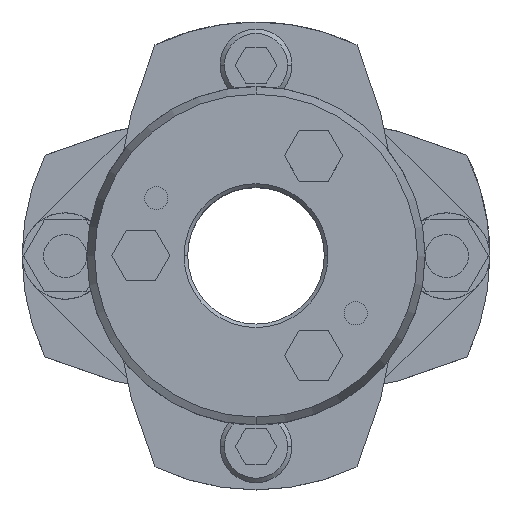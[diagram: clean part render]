
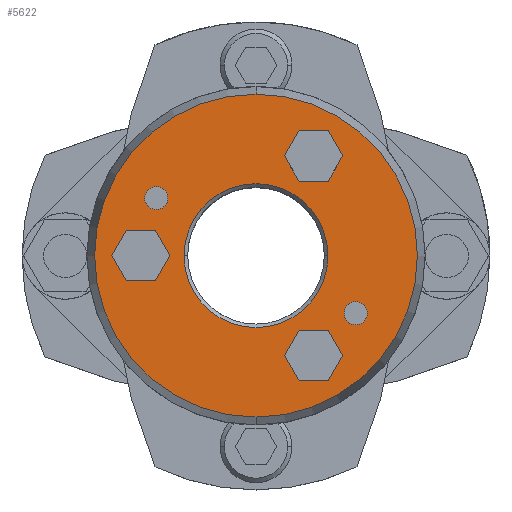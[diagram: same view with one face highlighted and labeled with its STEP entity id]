
A CAD part, top view. The second image highlights one B-rep face of the part: STEP entity #5622.
In plain terms, the highlighted planar face has unit normal (0, 0, 1).
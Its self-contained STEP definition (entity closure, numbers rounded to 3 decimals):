
#814=CARTESIAN_POINT('',(0.,-22.428,30.75));
#815=VERTEX_POINT('',#814);
#824=CARTESIAN_POINT('',(0.0,22.428,30.75));
#825=VERTEX_POINT('',#824);
#826=CARTESIAN_POINT('',(0.0,0.,30.75));
#827=DIRECTION('',(0.0,0.0,-1.0));
#828=DIRECTION('',(0.0,-1.0,0.0));
#829=AXIS2_PLACEMENT_3D('',#826,#827,#828);
#830=CIRCLE('',#829,22.428);
#831=EDGE_CURVE('',#815,#825,#830,.T.);
#858=CARTESIAN_POINT('',(-10.,0.,30.75));
#859=VERTEX_POINT('',#858);
#875=CARTESIAN_POINT('',(10.,0.,30.75));
#876=VERTEX_POINT('',#875);
#883=CARTESIAN_POINT('',(0.,0.,30.75));
#884=DIRECTION('',(0.0,0.0,1.0));
#885=DIRECTION('',(-1.0,0.0,0.0));
#886=AXIS2_PLACEMENT_3D('',#883,#884,#885);
#887=CIRCLE('',#886,10.0);
#888=EDGE_CURVE('',#876,#859,#887,.T.);
#1296=CARTESIAN_POINT('',(-15.456,8.,30.75));
#1297=VERTEX_POINT('',#1296);
#1313=CARTESIAN_POINT('',(-12.256,8.,30.75));
#1314=VERTEX_POINT('',#1313);
#1321=CARTESIAN_POINT('',(-13.856,8.,30.75));
#1322=DIRECTION('',(0.0,0.0,-1.0));
#1323=DIRECTION('',(-1.0,0.0,0.0));
#1324=AXIS2_PLACEMENT_3D('',#1321,#1322,#1323);
#1325=CIRCLE('',#1324,1.6);
#1326=EDGE_CURVE('',#1297,#1314,#1325,.T.);
#1338=CARTESIAN_POINT('',(12.256,-8.,30.75));
#1339=VERTEX_POINT('',#1338);
#1355=CARTESIAN_POINT('',(15.456,-8.,30.75));
#1356=VERTEX_POINT('',#1355);
#1363=CARTESIAN_POINT('',(13.856,-8.,30.75));
#1364=DIRECTION('',(0.0,0.0,-1.0));
#1365=DIRECTION('',(-1.0,0.0,0.0));
#1366=AXIS2_PLACEMENT_3D('',#1363,#1364,#1365);
#1367=CIRCLE('',#1366,1.6);
#1368=EDGE_CURVE('',#1339,#1356,#1367,.T.);
#3984=CARTESIAN_POINT('',(-20.041,0.,30.75));
#3985=VERTEX_POINT('',#3984);
#3992=CARTESIAN_POINT('',(-18.021,-3.5,30.75));
#3993=VERTEX_POINT('',#3992);
#3994=CARTESIAN_POINT('',(-18.021,-3.5,30.75));
#3995=DIRECTION('',(-0.5,0.866,0.0));
#3996=VECTOR('',#3995,4.041);
#3997=LINE('',#3994,#3996);
#3998=EDGE_CURVE('',#3993,#3985,#3997,.T.);
#4022=CARTESIAN_POINT('',(-18.021,3.5,30.75));
#4023=VERTEX_POINT('',#4022);
#4030=CARTESIAN_POINT('',(-20.041,0.,30.75));
#4031=DIRECTION('',(0.5,0.866,0.0));
#4032=VECTOR('',#4031,4.041);
#4033=LINE('',#4030,#4032);
#4034=EDGE_CURVE('',#3985,#4023,#4033,.T.);
#4053=CARTESIAN_POINT('',(-13.979,3.5,30.75));
#4054=VERTEX_POINT('',#4053);
#4061=CARTESIAN_POINT('',(-18.021,3.5,30.75));
#4062=DIRECTION('',(1.0,0.0,0.0));
#4063=VECTOR('',#4062,4.041);
#4064=LINE('',#4061,#4063);
#4065=EDGE_CURVE('',#4023,#4054,#4064,.T.);
#4084=CARTESIAN_POINT('',(-11.959,0.,30.75));
#4085=VERTEX_POINT('',#4084);
#4092=CARTESIAN_POINT('',(-13.979,3.5,30.75));
#4093=DIRECTION('',(0.5,-0.866,0.0));
#4094=VECTOR('',#4093,4.041);
#4095=LINE('',#4092,#4094);
#4096=EDGE_CURVE('',#4054,#4085,#4095,.T.);
#4115=CARTESIAN_POINT('',(-13.979,-3.5,30.75));
#4116=VERTEX_POINT('',#4115);
#4123=CARTESIAN_POINT('',(-11.959,0.,30.75));
#4124=DIRECTION('',(-0.5,-0.866,0.0));
#4125=VECTOR('',#4124,4.041);
#4126=LINE('',#4123,#4125);
#4127=EDGE_CURVE('',#4085,#4116,#4126,.T.);
#4145=CARTESIAN_POINT('',(-13.979,-3.5,30.75));
#4146=DIRECTION('',(-1.0,0.0,0.0));
#4147=VECTOR('',#4146,4.041);
#4148=LINE('',#4145,#4147);
#4149=EDGE_CURVE('',#4116,#3993,#4148,.T.);
#4184=CARTESIAN_POINT('',(3.959,13.856,30.75));
#4185=VERTEX_POINT('',#4184);
#4192=CARTESIAN_POINT('',(5.979,10.356,30.75));
#4193=VERTEX_POINT('',#4192);
#4194=CARTESIAN_POINT('',(5.979,10.356,30.75));
#4195=DIRECTION('',(-0.5,0.866,0.0));
#4196=VECTOR('',#4195,4.041);
#4197=LINE('',#4194,#4196);
#4198=EDGE_CURVE('',#4193,#4185,#4197,.T.);
#4222=CARTESIAN_POINT('',(5.979,17.356,30.75));
#4223=VERTEX_POINT('',#4222);
#4230=CARTESIAN_POINT('',(3.959,13.856,30.75));
#4231=DIRECTION('',(0.5,0.866,0.0));
#4232=VECTOR('',#4231,4.041);
#4233=LINE('',#4230,#4232);
#4234=EDGE_CURVE('',#4185,#4223,#4233,.T.);
#4253=CARTESIAN_POINT('',(10.021,17.356,30.75));
#4254=VERTEX_POINT('',#4253);
#4261=CARTESIAN_POINT('',(5.979,17.356,30.75));
#4262=DIRECTION('',(1.0,0.0,0.0));
#4263=VECTOR('',#4262,4.041);
#4264=LINE('',#4261,#4263);
#4265=EDGE_CURVE('',#4223,#4254,#4264,.T.);
#4284=CARTESIAN_POINT('',(12.041,13.856,30.75));
#4285=VERTEX_POINT('',#4284);
#4292=CARTESIAN_POINT('',(10.021,17.356,30.75));
#4293=DIRECTION('',(0.5,-0.866,0.0));
#4294=VECTOR('',#4293,4.041);
#4295=LINE('',#4292,#4294);
#4296=EDGE_CURVE('',#4254,#4285,#4295,.T.);
#4315=CARTESIAN_POINT('',(10.021,10.356,30.75));
#4316=VERTEX_POINT('',#4315);
#4323=CARTESIAN_POINT('',(12.041,13.856,30.75));
#4324=DIRECTION('',(-0.5,-0.866,0.0));
#4325=VECTOR('',#4324,4.041);
#4326=LINE('',#4323,#4325);
#4327=EDGE_CURVE('',#4285,#4316,#4326,.T.);
#4345=CARTESIAN_POINT('',(10.021,10.356,30.75));
#4346=DIRECTION('',(-1.0,0.0,0.0));
#4347=VECTOR('',#4346,4.041);
#4348=LINE('',#4345,#4347);
#4349=EDGE_CURVE('',#4316,#4193,#4348,.T.);
#4384=CARTESIAN_POINT('',(3.959,-13.856,30.75));
#4385=VERTEX_POINT('',#4384);
#4392=CARTESIAN_POINT('',(5.979,-17.356,30.75));
#4393=VERTEX_POINT('',#4392);
#4394=CARTESIAN_POINT('',(5.979,-17.356,30.75));
#4395=DIRECTION('',(-0.5,0.866,0.0));
#4396=VECTOR('',#4395,4.041);
#4397=LINE('',#4394,#4396);
#4398=EDGE_CURVE('',#4393,#4385,#4397,.T.);
#4422=CARTESIAN_POINT('',(5.979,-10.356,30.75));
#4423=VERTEX_POINT('',#4422);
#4430=CARTESIAN_POINT('',(3.959,-13.856,30.75));
#4431=DIRECTION('',(0.5,0.866,0.0));
#4432=VECTOR('',#4431,4.041);
#4433=LINE('',#4430,#4432);
#4434=EDGE_CURVE('',#4385,#4423,#4433,.T.);
#4453=CARTESIAN_POINT('',(10.021,-10.356,30.75));
#4454=VERTEX_POINT('',#4453);
#4461=CARTESIAN_POINT('',(5.979,-10.356,30.75));
#4462=DIRECTION('',(1.0,0.0,0.0));
#4463=VECTOR('',#4462,4.041);
#4464=LINE('',#4461,#4463);
#4465=EDGE_CURVE('',#4423,#4454,#4464,.T.);
#4484=CARTESIAN_POINT('',(12.041,-13.856,30.75));
#4485=VERTEX_POINT('',#4484);
#4492=CARTESIAN_POINT('',(10.021,-10.356,30.75));
#4493=DIRECTION('',(0.5,-0.866,0.0));
#4494=VECTOR('',#4493,4.041);
#4495=LINE('',#4492,#4494);
#4496=EDGE_CURVE('',#4454,#4485,#4495,.T.);
#4515=CARTESIAN_POINT('',(10.021,-17.356,30.75));
#4516=VERTEX_POINT('',#4515);
#4523=CARTESIAN_POINT('',(12.041,-13.856,30.75));
#4524=DIRECTION('',(-0.5,-0.866,0.0));
#4525=VECTOR('',#4524,4.041);
#4526=LINE('',#4523,#4525);
#4527=EDGE_CURVE('',#4485,#4516,#4526,.T.);
#4545=CARTESIAN_POINT('',(10.021,-17.356,30.75));
#4546=DIRECTION('',(-1.0,0.0,0.0));
#4547=VECTOR('',#4546,4.041);
#4548=LINE('',#4545,#4547);
#4549=EDGE_CURVE('',#4516,#4393,#4548,.T.);
#4575=CARTESIAN_POINT('',(13.856,-8.,30.75));
#4576=DIRECTION('',(0.0,0.0,-1.0));
#4577=DIRECTION('',(-1.0,0.0,0.0));
#4578=AXIS2_PLACEMENT_3D('',#4575,#4576,#4577);
#4579=CIRCLE('',#4578,1.6);
#4580=EDGE_CURVE('',#1356,#1339,#4579,.T.);
#4609=CARTESIAN_POINT('',(-13.856,8.,30.75));
#4610=DIRECTION('',(0.0,0.0,-1.0));
#4611=DIRECTION('',(-1.0,0.0,0.0));
#4612=AXIS2_PLACEMENT_3D('',#4609,#4610,#4611);
#4613=CIRCLE('',#4612,1.6);
#4614=EDGE_CURVE('',#1314,#1297,#4613,.T.);
#5559=CARTESIAN_POINT('',(0.,0.,30.75));
#5560=DIRECTION('',(0.0,0.0,1.0));
#5561=DIRECTION('',(-1.0,0.0,0.0));
#5562=AXIS2_PLACEMENT_3D('',#5559,#5560,#5561);
#5563=CIRCLE('',#5562,10.0);
#5564=EDGE_CURVE('',#859,#876,#5563,.T.);
#5571=CARTESIAN_POINT('',(0.,-9.964,30.75));
#5572=DIRECTION('',(0.0,0.0,1.0));
#5573=DIRECTION('',(-1.0,0.0,0.0));
#5574=AXIS2_PLACEMENT_3D('',#5571,#5572,#5573);
#5575=PLANE('',#5574);
#5576=ORIENTED_EDGE('',*,*,#831,.F.);
#5577=CARTESIAN_POINT('',(0.0,0.,30.75));
#5578=DIRECTION('',(0.0,0.0,-1.0));
#5579=DIRECTION('',(0.0,-1.0,0.0));
#5580=AXIS2_PLACEMENT_3D('',#5577,#5578,#5579);
#5581=CIRCLE('',#5580,22.428);
#5582=EDGE_CURVE('',#825,#815,#5581,.T.);
#5583=ORIENTED_EDGE('',*,*,#5582,.F.);
#5584=EDGE_LOOP('',(#5576,#5583));
#5585=FACE_OUTER_BOUND('',#5584,.T.);
#5586=ORIENTED_EDGE('',*,*,#3998,.T.);
#5587=ORIENTED_EDGE('',*,*,#4034,.T.);
#5588=ORIENTED_EDGE('',*,*,#4065,.T.);
#5589=ORIENTED_EDGE('',*,*,#4096,.T.);
#5590=ORIENTED_EDGE('',*,*,#4127,.T.);
#5591=ORIENTED_EDGE('',*,*,#4149,.T.);
#5592=EDGE_LOOP('',(#5586,#5587,#5588,#5589,#5590,#5591));
#5593=FACE_BOUND('',#5592,.T.);
#5594=ORIENTED_EDGE('',*,*,#4198,.T.);
#5595=ORIENTED_EDGE('',*,*,#4234,.T.);
#5596=ORIENTED_EDGE('',*,*,#4265,.T.);
#5597=ORIENTED_EDGE('',*,*,#4296,.T.);
#5598=ORIENTED_EDGE('',*,*,#4327,.T.);
#5599=ORIENTED_EDGE('',*,*,#4349,.T.);
#5600=EDGE_LOOP('',(#5594,#5595,#5596,#5597,#5598,#5599));
#5601=FACE_BOUND('',#5600,.T.);
#5602=ORIENTED_EDGE('',*,*,#4398,.T.);
#5603=ORIENTED_EDGE('',*,*,#4434,.T.);
#5604=ORIENTED_EDGE('',*,*,#4465,.T.);
#5605=ORIENTED_EDGE('',*,*,#4496,.T.);
#5606=ORIENTED_EDGE('',*,*,#4527,.T.);
#5607=ORIENTED_EDGE('',*,*,#4549,.T.);
#5608=EDGE_LOOP('',(#5602,#5603,#5604,#5605,#5606,#5607));
#5609=FACE_BOUND('',#5608,.T.);
#5610=ORIENTED_EDGE('',*,*,#1368,.T.);
#5611=ORIENTED_EDGE('',*,*,#4580,.T.);
#5612=EDGE_LOOP('',(#5610,#5611));
#5613=FACE_BOUND('',#5612,.T.);
#5614=ORIENTED_EDGE('',*,*,#1326,.T.);
#5615=ORIENTED_EDGE('',*,*,#4614,.T.);
#5616=EDGE_LOOP('',(#5614,#5615));
#5617=FACE_BOUND('',#5616,.T.);
#5618=ORIENTED_EDGE('',*,*,#888,.F.);
#5619=ORIENTED_EDGE('',*,*,#5564,.F.);
#5620=EDGE_LOOP('',(#5618,#5619));
#5621=FACE_BOUND('',#5620,.T.);
#5622=ADVANCED_FACE('',(#5585,#5593,#5601,#5609,#5613,#5617,#5621),#5575,.T.);
